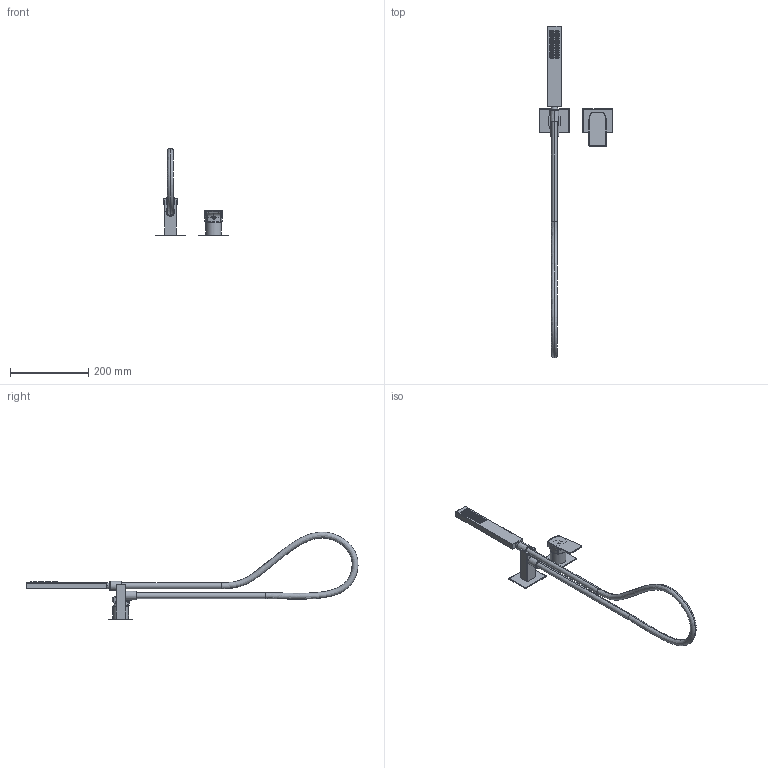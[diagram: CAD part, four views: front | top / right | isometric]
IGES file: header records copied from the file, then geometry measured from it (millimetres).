
Start section:  PTC IGES file: 75567.igs
Global section: file name: 75567.igs; native system: Creo Parametric by PTC Inc.; preprocessor: 2022014; author: carloff; organization: Unknown; date: 20241015.091607; units: millimetre
Bounding box: 185 x 846.85 x 223.99 mm (x, y, z)
Surface area: 132943.1 mm2 (no closed solid volume)
Topology: 0 solids, 0 shells, 637 faces, 2770 edges, 2768 vertices
Faces by surface type: revolution 458, bspline 179
